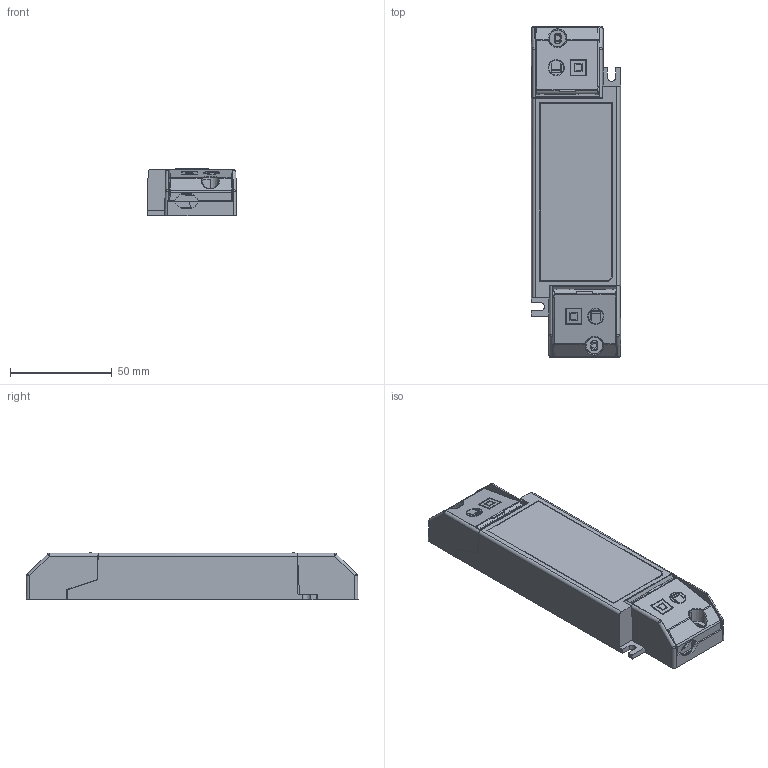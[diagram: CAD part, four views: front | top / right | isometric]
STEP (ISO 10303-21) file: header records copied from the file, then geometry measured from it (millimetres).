
FILE_DESCRIPTION(('Creo Elements/Direct Modeling STEP Export'),'2;1');
FILE_NAME('Cord grip_K125_Cord grip.stp','2026-04-09T14:24:46',(''),(''),'Creo Elements/Direct Modeling STEP processor for AP214 (Solid Model)','Creo Elements/Direct Modeling 20.7 06-Apr-2024 (C) Parametric Technology GmbH','');
FILE_SCHEMA(('AUTOMOTIVE_DESIGN { 1 0 10303 214 1 1 1 1 }'));
Length unit declared in the file: millimetre
Products named in the file (13): cord grip top; cord grip bottom; Cord grip with screw output; PCB; Output connector; Input connector; PCB_; casing bottom; casing top; Cord grip with screw input; K125
Assembly tree (12 placements, depth 3):
  K125
    Cord grip with screw input
      cord grip bottom
      cord grip top
    casing top
    casing bottom
    PCB_
      Input connector
      Output connector
      PCB
    Cord grip with screw output
      cord grip bottom
      cord grip top
Bounding box: 44 x 163.52 x 23.57 mm (x, y, z)
Volume: 44085.1 mm3; surface area: 70166.7 mm2
Topology: 9 solids, 9 shells, 1586 faces, 4481 edges, 2854 vertices
Faces by surface type: plane 918, cylinder 306, sphere 148, extrusion 104, bspline 62, cone 40, torus 8
Entity records: 63711 total; most frequent: CARTESIAN_POINT 24050, ORIENTED_EDGE 8618, DIRECTION 7011, EDGE_CURVE 4309, VECTOR 2953, VERTEX_POINT 2854, LINE 2849, AXIS2_PLACEMENT_3D 2029
